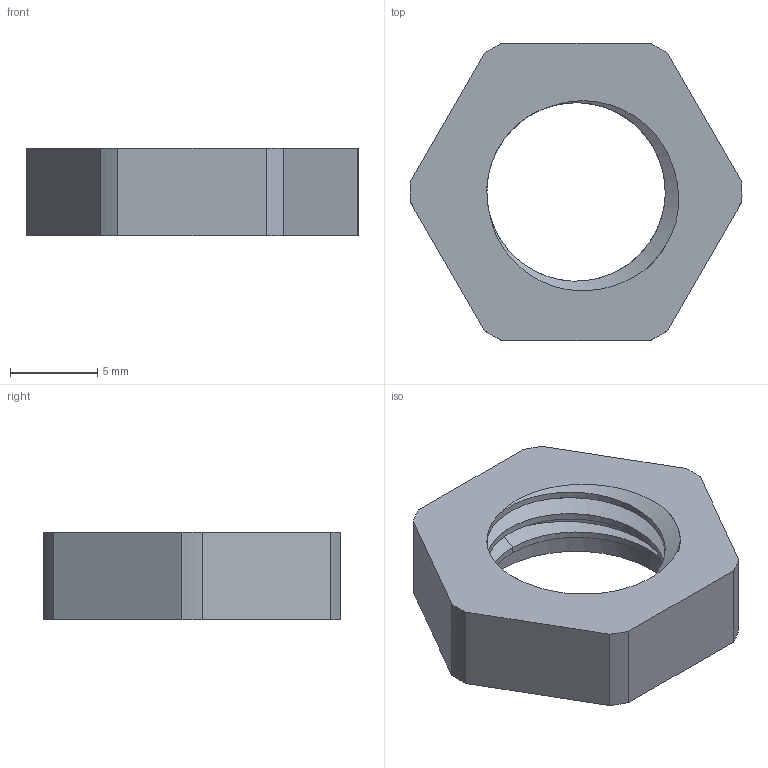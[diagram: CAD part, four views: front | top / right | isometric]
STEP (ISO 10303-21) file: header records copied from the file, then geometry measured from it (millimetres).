
FILE_DESCRIPTION(/* description */ (''),/* implementation_level */ '2;1');
FILE_NAME(/* name */ '4009139.stp',/* time_stamp */ '2019-03-05T01:00:31+01:00',/* author */ (''),/* organization */ (''),/* preprocessor_version */ 'ST-DEVELOPER v16.7',/* originating_system */ 'SIEMENS PLM Software NX 12.0',/* authorisation */ '');
FILE_SCHEMA (('AUTOMOTIVE_DESIGN { 1 0 10303 214 3 1 1 1 }'));
Length unit declared in the file: millimetre
Products named in the file (1): BSOM0DCCF74Fw5rq
Bounding box: 19 x 17 x 5 mm (x, y, z)
Surface area: 835.4 mm2 (no closed solid volume)
Topology: 0 solids, 1 shells, 22 faces, 61 edges, 40 vertices
Faces by surface type: plane 8, cylinder 8, bspline 6
Full cylindrical faces by diameter (mm): 11.962 x2
Entity records: 1370 total; most frequent: CARTESIAN_POINT 859, ORIENTED_EDGE 106, DIRECTION 84, EDGE_CURVE 53, VERTEX_POINT 35, AXIS2_PLACEMENT_3D 30, EDGE_LOOP 24, LINE 24
